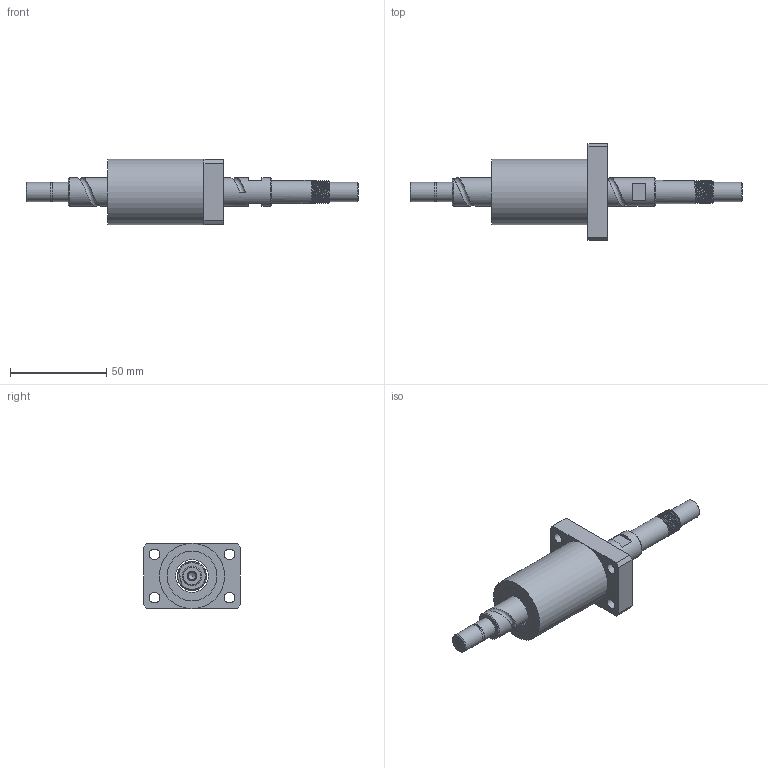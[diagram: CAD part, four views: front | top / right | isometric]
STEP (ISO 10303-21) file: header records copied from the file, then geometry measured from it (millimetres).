
FILE_DESCRIPTION (( 'STEP AP203' ), '1' );
FILE_NAME ('XSVR01520-01.STEP', '2023-08-16T00:52:50', ( '' ), ( '' ), 'SwSTEP 2.0', 'SolidWorks 2022', '' );
FILE_SCHEMA (( 'CONFIG_CONTROL_DESIGN' ));
Length unit declared in the file: millimetre
Products named in the file (1): XSVR01520-01
Bounding box: 172.81 x 50 x 34 mm (x, y, z)
Volume: 70585.2 mm3; surface area: 25020.1 mm2
Topology: 4 solids, 4 shells, 102 faces, 241 edges, 159 vertices
Faces by surface type: cylinder 57, plane 34, cone 6, bspline 5
Full cylindrical faces by diameter (mm): 4 x15, 5.5 x4, 9.5 x4, 9.6 x1, 10 x3, 12 x9, 15 x4, 17 x3, 26 x4, 34 x1
Entity records: 9367 total; most frequent: CARTESIAN_POINT 7837, DIRECTION 303, ORIENTED_EDGE 238, AXIS2_PLACEMENT_3D 136, EDGE_LOOP 128, EDGE_CURVE 119, FACE_OUTER_BOUND 97, VERTEX_POINT 93
